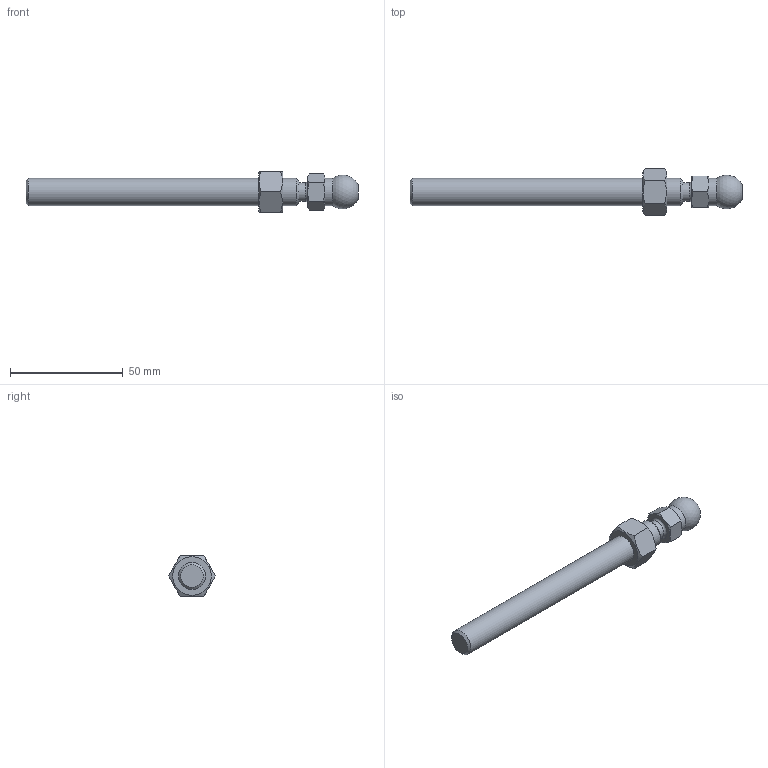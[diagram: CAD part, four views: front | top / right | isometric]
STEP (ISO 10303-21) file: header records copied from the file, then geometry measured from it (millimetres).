
FILE_DESCRIPTION(('STEP AP203'), '1');
FILE_NAME('A00020.112125', '', ('UNSPECIFIED'), ('UNSPECIFIED'), 'C3D Converter', 'C3D Toolkit', '');
FILE_SCHEMA(('CONFIG_CONTROL_DESIGN'));
Length unit declared in the file: millimetre
Products named in the file (2): A00020.112125
Assembly tree (1 placements, depth 2):
  A00020.112125
    (unnamed)
Bounding box: 147.3 x 20.78 x 18 mm (x, y, z)
Volume: 19126.8 mm3; surface area: 7337.9 mm2
Topology: 2 solids, 2 shells, 43 faces, 88 edges, 52 vertices
Faces by surface type: plane 19, cone 18, cylinder 4, torus 1, sphere 1
Full cylindrical faces by diameter (mm): 8.3 x1, 10.647 x1, 12 x2
Entity records: 2211 total; most frequent: CARTESIAN_POINT 1309, DIRECTION 158, ORIENTED_EDGE 152, EDGE_CURVE 76, AXIS2_PLACEMENT_3D 73, EDGE_LOOP 60, VERTEX_POINT 52, ADVANCED_FACE 43
